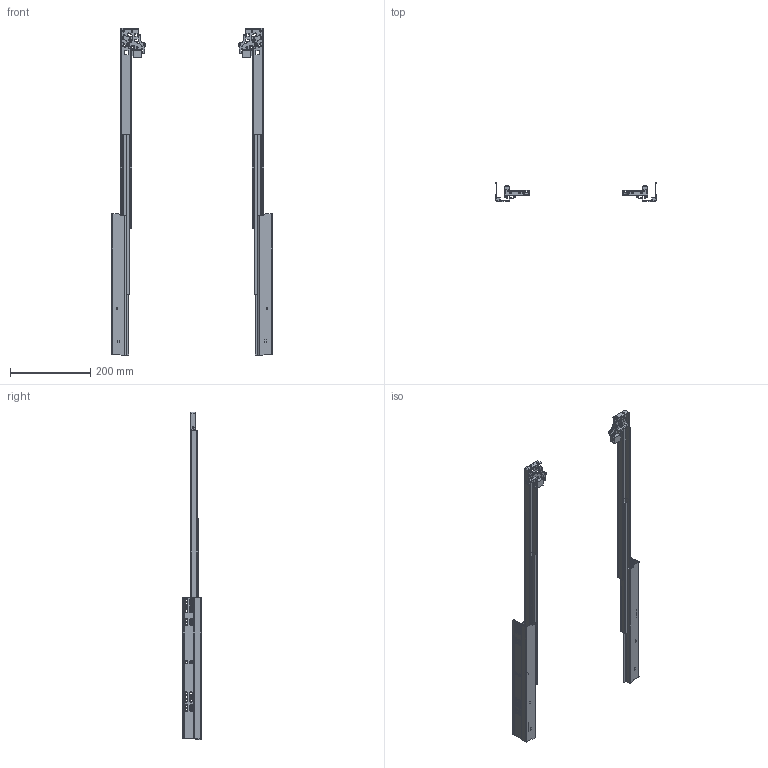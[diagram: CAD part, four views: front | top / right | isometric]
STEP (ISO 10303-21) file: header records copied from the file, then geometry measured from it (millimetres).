
FILE_DESCRIPTION(/* description */ (''),/* implementation_level */ '2;1');
FILE_NAME(/* name */ 'D:\$Workingspace\Designs\Katalog\Cadsoft\GTV Prowadnice\Prowadnice GTV_bryły 3D\PB-0FPO-500_wysunieta.stp',/* time_stamp */ '2016-11-21T14:05:22+01:00',/* author */ ('tomaszw'),/* organization */ (''),/* preprocessor_version */ 'ST-DEVELOPER v16.1',/* originating_system */ 'Autodesk Inventor 2016',/* authorisation */ '');
FILE_SCHEMA (('AUTOMOTIVE_DESIGN { 1 0 10303 214 3 1 1 }'));
Length unit declared in the file: millimetre
Products named in the file (9): PB-0FPO-CL-500; PB-0FPO-CR-500; PB-0FPO-DL-500; PB-0FPO-DR-500; PB-0FPO-DWL-500; PB-0FPO-DWR-500; PB-0FPO-SL; PB-0FPO-SR; PB-0FPO
Assembly tree (8 placements, depth 2):
  PB-0FPO
    PB-0FPO-CL-500
    PB-0FPO-CR-500
    PB-0FPO-DL-500
    PB-0FPO-DR-500
    PB-0FPO-DWL-500
    PB-0FPO-DWR-500
    PB-0FPO-SL
    PB-0FPO-SR
Bounding box: 400 x 48.8 x 819 mm (x, y, z)
Volume: 313111.3 mm3; surface area: 386761.7 mm2
Topology: 16 solids, 16 shells, 1884 faces, 4356 edges, 2510 vertices
Faces by surface type: cylinder 792, plane 444, torus 366, sphere 198, cone 48, bspline 36
Full cylindrical faces by diameter (mm): 3 x2, 4 x6, 4.5 x6, 5 x2, 6 x48, 7.889 x2
Entity records: 56377 total; most frequent: CARTESIAN_POINT 11155, DIRECTION 9982, ORIENTED_EDGE 8308, EDGE_CURVE 4154, AXIS2_PLACEMENT_3D 4031, VERTEX_POINT 2456, EDGE_LOOP 2182, CIRCLE 2154
